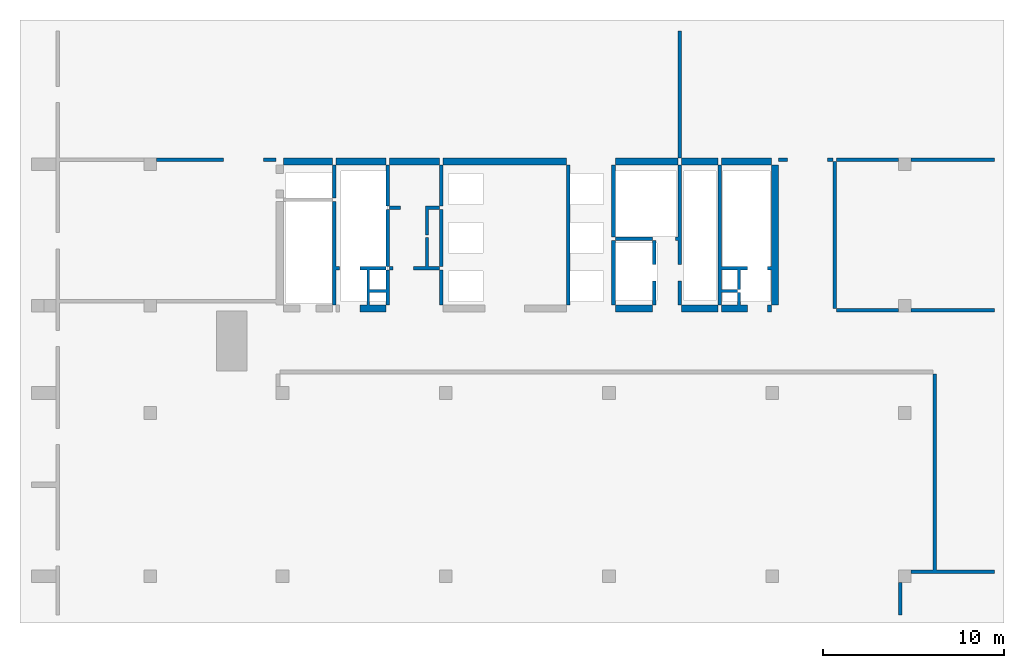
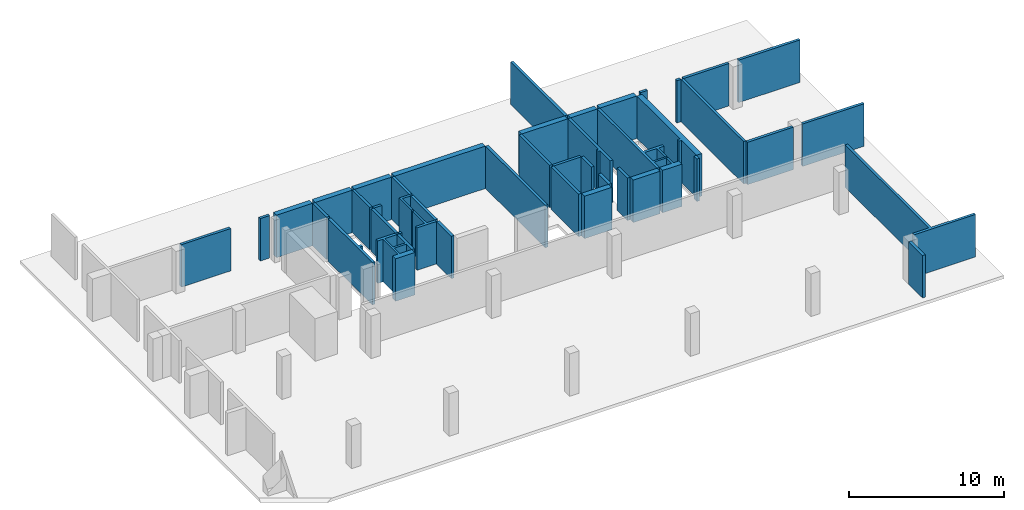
# One storey, part 2 of 2: 45 walls.
"""IFC4 building model written with IfcOpenShell, lengths in millimetres."""

import ifcopenshell
import ifcopenshell.guid

model = None  # the IFC model being written
_history = None  # IfcOwnerHistory: only IFC2X3 demands one
_inside = {}  # id of a spatial element -> (the spatial element, [elements in it])
_under = {}  # id of a project, library or spatial element -> (it, [spatial elements below it])
_declared = {}  # id of a project -> (the project, [libraries it declares])
_typed = {}  # id of a type object -> (the type object, [elements of that type])
_made_of = {}  # id of a material, layer set ... -> (it, [elements and type objects made of it])


def new_model(schema):
    """Start an empty IFC model of exactly this schema.

    Asked for "IFC4X3", IfcOpenShell would pick the latest addendum, in which some entities
    have other attributes; the version numbers below select the first issue.
    IFC2X3 requires an IfcOwnerHistory on every rooted entity: one is made here for all.
    """
    global model, _history
    if schema == "IFC4X3":
        model = ifcopenshell.file(schema_version=(4, 3, 0, 0))
    else:
        model = ifcopenshell.file(schema=schema)
    _inside.clear()
    _under.clear()
    _declared.clear()
    _typed.clear()
    _made_of.clear()
    _history = None
    if model.schema == "IFC2X3":
        org = make("IfcOrganization", Name="unknown")
        user = make(
            "IfcPersonAndOrganization",
            ThePerson=make("IfcPerson", FamilyName="unknown"),
            TheOrganization=org,
        )
        app = make(
            "IfcApplication",
            ApplicationDeveloper=org,
            Version="unknown",
            ApplicationFullName="unknown",
            ApplicationIdentifier="unknown",
        )
        _history = make(
            "IfcOwnerHistory",
            OwningUser=user,
            OwningApplication=app,
            ChangeAction="ADDED",
            CreationDate=0,
        )
    return model


def make(cls, **values):
    """One entity of the class cls with the attributes given. An attribute that is None is left unset."""
    return model.create_entity(
        cls, **{name: value for name, value in values.items() if value is not None}
    )


def rooted(cls, **values):
    """An entity with a GlobalId (a new one), such as an element, a storey or a relation."""
    return make(cls, GlobalId=ifcopenshell.guid.new(), OwnerHistory=_history, **values)


def si_unit(unit_type, name, prefix=None):
    """IfcSIUnit, for example si_unit("LENGTHUNIT", "METRE", prefix="MILLI")."""
    return make("IfcSIUnit", UnitType=unit_type, Prefix=prefix, Name=name)


def assignment(units):
    """IfcUnitAssignment: the units of a project."""
    return None if units is None else make("IfcUnitAssignment", Units=units)


def point(xyz):
    """IfcCartesianPoint."""
    return None if xyz is None else make("IfcCartesianPoint", Coordinates=xyz)


def direction(xyz):
    """IfcDirection."""
    return None if xyz is None else make("IfcDirection", DirectionRatios=xyz)


def frame(location, z_axis=None, x_axis=None):
    """IfcAxis2Placement3D, a coordinate frame: its origin and axes. An axis left out is left unset."""
    return make(
        "IfcAxis2Placement3D",
        Location=point(location),
        Axis=direction(z_axis),
        RefDirection=direction(x_axis),
    )


def origin():
    """The frame at (0, 0, 0) with its axes left unset."""
    return frame((0.0, 0.0, 0.0))


def place(relative_to, where):
    """IfcLocalPlacement: puts the frame where relative to a parent placement (None: the world)."""
    return make(
        "IfcLocalPlacement", PlacementRelTo=relative_to, RelativePlacement=where
    )


def context(
    kind, dimensions, precision=None, world=None, true_north=None, identifier=None
):
    """IfcGeometricRepresentationContext, for example the 3D "Model" context."""
    return make(
        "IfcGeometricRepresentationContext",
        ContextIdentifier=identifier,
        ContextType=kind,
        CoordinateSpaceDimension=dimensions,
        Precision=precision,
        WorldCoordinateSystem=world,
        TrueNorth=true_north,
    )


def project(units=None, contexts=None):
    """IfcProject with its units and contexts."""
    return rooted(
        "IfcProject",
        Name="project",
        RepresentationContexts=contexts,
        UnitsInContext=assignment(units),
    )


def spatial(cls, under=None, at=None, **own):
    """A site, building, storey or space (cls), placed at a placement, below another one or the project."""
    s = rooted(cls, ObjectPlacement=at, **own)
    if under is not None:
        _under.setdefault(under.id(), (under, []))[1].append(s)
    return s


def point_list(points):
    """IfcCartesianPointList2D or 3D."""
    cls = (
        "IfcCartesianPointList2D" if len(points[0]) == 2 else "IfcCartesianPointList3D"
    )
    return make(cls, CoordList=points)


def triangles(points, corners, closed=None, point_numbers=None):
    """IfcTriangulatedFaceSet: each triangle names its three corners, points numbered from 1."""
    return make(
        "IfcTriangulatedFaceSet",
        Coordinates=point_list(points),
        Closed=closed,
        CoordIndex=corners,
        PnIndex=point_numbers,
    )


def shape(context_of_items, identifier, shape_type, items):
    """IfcShapeRepresentation: the items that make up one representation, for example the "Body"."""
    return make(
        "IfcShapeRepresentation",
        ContextOfItems=context_of_items,
        RepresentationIdentifier=identifier,
        RepresentationType=shape_type,
        Items=items,
    )


def made_of(thing, what):
    """Note that an element or type object is made of a material, layer set ...; save() writes the relation."""
    if what is not None:
        _made_of.setdefault(what.id(), (what, []))[1].append(thing)
    return thing


def element(
    cls,
    number,
    at=None,
    inside=None,
    cuts=None,
    type_object=None,
    material=None,
    context=None,
    identifier="Body",
    shape_type=None,
    held_by="IfcProductDefinitionShape",
    body=None,
    shapes=None,
    **own,
):
    """One element of the class cls, such as IfcWall. Its Tag is "e" and its number.

    at: its placement. inside: the storey or other place that contains it. cuts: it is an
    opening in that element (IfcRelVoidsElement). A single representation is given by context,
    identifier, shape_type and body (its items); several are given by shapes. held_by: the class
    of the entity that holds the representations. save() writes the other relations.
    """
    e = rooted(cls, Tag="e%d" % number, ObjectPlacement=at, **own)
    if body is not None:
        shapes = [shape(context, identifier, shape_type, body)]
    if shapes is not None:
        e.Representation = make(held_by, Representations=shapes)
    if inside is not None:
        _inside.setdefault(inside.id(), (inside, []))[1].append(e)
    if cuts is not None:
        rooted(
            "IfcRelVoidsElement", RelatingBuildingElement=cuts, RelatedOpeningElement=e
        )
    if type_object is not None:
        _typed.setdefault(type_object.id(), (type_object, []))[1].append(e)
    return made_of(e, material)


def aggregate(whole, parts):
    """IfcRelAggregates: a whole, such as a stair, and the parts it consists of."""
    return rooted("IfcRelAggregates", RelatingObject=whole, RelatedObjects=parts)


def save(model, path):
    """Write the relations noted so far, then the file.

    IfcRelAggregates (storeys below a building ...), IfcRelContainedInSpatialStructure (elements
    in a storey), IfcRelDefinesByType, IfcRelAssociatesMaterial and IfcRelDeclares: one each for
    every whole, place, type object, material and project.
    """
    for whole, parts in _under.values():
        aggregate(whole, parts)
    for where, things in _inside.values():
        rooted(
            "IfcRelContainedInSpatialStructure",
            RelatedElements=things,
            RelatingStructure=where,
        )
    for kind, things in _typed.values():
        rooted("IfcRelDefinesByType", RelatedObjects=things, RelatingType=kind)
    for what, things in _made_of.values():
        rooted("IfcRelAssociatesMaterial", RelatedObjects=things, RelatingMaterial=what)
    for by, libraries in _declared.values():
        rooted("IfcRelDeclares", RelatingContext=by, RelatedDefinitions=libraries)
    model.write(path)


model = new_model("IFC4")

# Units and contexts
model_context = context("Model", 3, precision=0.001, world=origin())
ifc_project = project(units=[si_unit("LENGTHUNIT", "METRE", prefix="MILLI"), si_unit("AREAUNIT", "SQUARE_METRE"), si_unit("VOLUMEUNIT", "CUBIC_METRE")], contexts=[model_context])

# Site, building, storey
site_placement = place(None, origin())
site = spatial("IfcSite", under=ifc_project, at=site_placement, Name="Site", CompositionType="ELEMENT")
building_placement = place(site_placement, origin())
building = spatial("IfcBuilding", under=site, at=building_placement, Name="INNOCEAN", CompositionType="ELEMENT")
storey_placement = place(building_placement, frame((0.0, 0.0, -30600.0)))
storey = spatial("IfcBuildingStorey", under=building, at=storey_placement, Name="B8", CompositionType="ELEMENT", Elevation=-30600.0)

# Walls
wall_1_placement = place(storey_placement, origin())
element("IfcWall", 1, at=wall_1_placement, inside=storey, Name="B8_Walls_B8_008", context=model_context, shape_type="Tessellation", body=[
    triangles([(10235.0, 25216.3, 0.0), (10235.0, 25419.5, 0.0), (10235.0, 25419.5, 3350.0), (10235.0, 25216.3, 3350.0), (6541.2, 25216.3, 3350.0), (6541.2, 25216.3, 0.0), (6541.2, 25419.5, 0.0), (6541.2, 25419.5, 3350.0)], [[1, 2, 3], [1, 3, 4], [5, 1, 4], [6, 1, 5], [7, 6, 5], [7, 5, 8], [2, 7, 8], [2, 8, 3], [7, 2, 1], [7, 1, 6], [3, 8, 4], [4, 8, 5]], closed=True),
])
wall_2_placement = place(storey_placement, origin())
element("IfcWall", 2, at=wall_2_placement, inside=storey, Name="B8_Walls_B8_014", context=model_context, shape_type="Tessellation", body=[
    triangles([(17749.4, 17316.1, 0.0), (17749.4, 16922.4, 0.0), (17749.4, 16922.4, 3350.0), (17749.4, 17316.1, 3350.0), (19183.7, 16922.4, 0.0), (19183.7, 16922.4, 3350.0), (19183.7, 17316.1, 0.0), (19183.7, 17316.1, 3350.0), (19374.1, 17316.1, 0.0), (19374.1, 17316.1, 3350.0), (19374.1, 19246.7, 0.0), (19374.1, 19246.7, 3350.0), (19183.7, 19246.7, 0.0), (19183.7, 19246.7, 3350.0), (19183.7, 19449.9, 0.0), (19183.7, 19449.9, 3350.0), (17749.4, 19449.9, 0.0), (17749.4, 19449.9, 3350.0), (17749.4, 19246.7, 0.0), (17749.4, 19246.7, 3350.0), (18130.2, 19246.7, 0.0), (18130.2, 19246.7, 3350.0), (18130.2, 19245.0, 0.0), (18130.2, 19245.0, 3350.0), (18130.0, 19245.0, 0.0), (18130.0, 19245.0, 3350.0), (18130.0, 17316.1, 0.0), (18130.0, 17316.1, 3350.0), (18282.5, 17316.1, 0.0), (18282.5, 17316.1, 3350.0), (18282.5, 18014.7, 0.0), (18282.5, 18014.7, 3350.0), (19183.7, 18014.7, 0.0), (19183.7, 18014.7, 3350.0), (19183.7, 18167.1, 0.0), (19183.7, 18167.1, 3350.0), (18282.5, 18167.1, 0.0), (18282.5, 18167.1, 3350.0), (18282.5, 19246.7, 0.0), (18282.5, 19246.7, 3350.0)], [[1, 2, 3], [1, 3, 4], [2, 5, 6], [2, 6, 3], [5, 7, 8], [5, 8, 6], [7, 9, 10], [7, 10, 8], [11, 12, 10], [9, 11, 10], [11, 13, 14], [11, 14, 12], [13, 15, 16], [13, 16, 14], [15, 17, 18], [15, 18, 16], [17, 19, 20], [17, 20, 18], [19, 21, 22], [19, 22, 20], [21, 23, 24], [21, 24, 22], [23, 25, 26], [23, 26, 24], [25, 27, 28], [25, 28, 26], [27, 1, 4], [27, 4, 28], [7, 29, 30], [7, 30, 8], [29, 31, 32], [29, 32, 30], [31, 33, 34], [31, 34, 32], [33, 7, 8], [33, 8, 34], [13, 35, 36], [13, 36, 14], [35, 37, 38], [35, 38, 36], [37, 39, 40], [37, 40, 38], [39, 13, 14], [39, 14, 40], [33, 9, 7], [35, 9, 33], [29, 7, 5], [2, 29, 5], [27, 29, 2], [1, 27, 2], [31, 35, 33], [31, 29, 27], [11, 9, 35], [37, 35, 31], [13, 11, 35], [39, 15, 13], [23, 39, 37], [25, 23, 37], [21, 39, 23], [17, 21, 19], [17, 15, 39], [17, 39, 21], [27, 25, 37], [27, 37, 31], [10, 34, 8], [10, 36, 34], [8, 30, 6], [30, 3, 6], [30, 28, 3], [28, 4, 3], [36, 32, 34], [30, 32, 28], [10, 12, 36], [36, 38, 32], [12, 14, 36], [16, 40, 14], [40, 24, 38], [24, 26, 38], [40, 22, 24], [22, 18, 20], [16, 18, 40], [40, 18, 22], [26, 28, 38], [38, 28, 32]], closed=True),
])
wall_3_placement = place(storey_placement, origin())
element("IfcWall", 3, at=wall_3_placement, inside=storey, Name="B8_Walls_B8_015", context=model_context, shape_type="Tessellation", body=[
    triangles([(16429.3, 23019.0, 0.0), (16226.2, 23019.0, 0.0), (16226.2, 23019.0, 3350.0), (16429.3, 23019.0, 3350.0), (16429.3, 19449.9, 0.0), (16429.3, 19449.9, 3350.0), (16632.4, 19449.9, 0.0), (16632.4, 19449.9, 3350.0), (16632.4, 19246.7, 0.0), (16632.4, 19246.7, 3350.0), (16429.3, 19246.7, 0.0), (16429.3, 19246.7, 3350.0), (16429.3, 17316.1, 3350.0), (16429.3, 17316.1, 0.0), (16226.2, 17316.1, 0.0), (16226.2, 17316.1, 3350.0), (16226.2, 19246.7, 3350.0), (16226.2, 19246.7, 0.0), (16226.2, 19449.9, 0.0), (16226.2, 19449.9, 3350.0)], [[1, 2, 3], [1, 3, 4], [5, 1, 4], [5, 4, 6], [7, 5, 6], [7, 6, 8], [9, 7, 8], [9, 8, 10], [11, 9, 10], [11, 10, 12], [11, 12, 13], [14, 11, 13], [15, 14, 13], [15, 13, 16], [15, 16, 17], [18, 15, 17], [19, 18, 17], [19, 17, 20], [2, 19, 20], [2, 20, 3], [18, 11, 14], [18, 14, 15], [5, 7, 9], [5, 9, 11], [19, 5, 11], [19, 11, 18], [1, 5, 19], [2, 1, 19], [12, 17, 13], [13, 17, 16], [8, 6, 10], [10, 6, 12], [6, 20, 12], [12, 20, 17], [6, 4, 20], [4, 3, 20]], closed=True),
])
wall_4_placement = place(storey_placement, origin())
element("IfcWall", 4, at=wall_4_placement, inside=storey, Name="B8_Walls_B8_016", context=model_context, shape_type="Tessellation", body=[
    triangles([(19577.2, 19449.9, 0.0), (19374.1, 19449.9, 0.0), (19374.1, 19449.9, 3350.0), (19577.2, 19449.9, 3350.0), (19577.2, 19246.7, 0.0), (19577.2, 19246.7, 3350.0), (19374.1, 19246.7, 0.0), (19374.1, 19246.7, 3350.0)], [[1, 2, 3], [1, 3, 4], [5, 1, 4], [5, 4, 6], [7, 5, 6], [7, 6, 8], [2, 7, 8], [2, 8, 3], [2, 1, 5], [2, 5, 7], [4, 3, 6], [6, 3, 8]], closed=True),
])
wall_5_placement = place(storey_placement, origin())
element("IfcWall", 5, at=wall_5_placement, inside=storey, Name="B8_Walls_B8_017", context=model_context, shape_type="Tessellation", body=[
    triangles([(19374.1, 19449.9, 0.0), (19374.1, 22574.4, 0.0), (19374.1, 22574.4, 3350.0), (19374.1, 19449.9, 3350.0), (19183.7, 19449.9, 0.0), (19183.7, 19449.9, 3350.0), (19183.7, 22574.4, 0.0), (19183.7, 22574.4, 3350.0)], [[1, 2, 3], [1, 3, 4], [5, 1, 4], [5, 4, 6], [7, 5, 6], [7, 6, 8], [2, 7, 8], [2, 8, 3], [2, 1, 5], [7, 2, 5], [4, 3, 6], [3, 8, 6]], closed=True),
])
wall_6_placement = place(storey_placement, origin())
element("IfcWall", 6, at=wall_6_placement, inside=storey, Name="B8_Walls_B8_018", context=model_context, shape_type="Tessellation", body=[
    triangles([(19970.7, 22574.4, 0.0), (19970.7, 22765.0, 0.0), (19970.7, 22765.0, 3350.0), (19970.7, 22574.4, 3350.0), (19374.1, 22574.4, 0.0), (19374.1, 22574.4, 3350.0), (19374.1, 22765.0, 0.0), (19374.1, 22765.0, 3350.0)], [[1, 2, 3], [1, 3, 4], [5, 1, 4], [5, 4, 6], [7, 5, 6], [7, 6, 8], [2, 7, 8], [2, 8, 3], [7, 2, 1], [7, 1, 5], [3, 8, 4], [4, 8, 6]], closed=True),
])
wall_7_placement = place(storey_placement, origin())
element("IfcWall", 7, at=wall_7_placement, inside=storey, Name="B8_Walls_B8_021", context=model_context, shape_type="Tessellation", body=[
    triangles([(19374.1, 22765.0, 0.0), (19374.1, 25025.8, 0.0), (19374.1, 25025.8, 3350.0), (19374.1, 22765.0, 3350.0), (19183.7, 22765.0, 0.0), (19183.7, 22765.0, 3350.0), (19183.7, 25025.8, 0.0), (19183.7, 25025.8, 3350.0)], [[1, 2, 3], [1, 3, 4], [5, 1, 4], [5, 4, 6], [7, 5, 6], [7, 6, 8], [2, 7, 8], [2, 8, 3], [7, 2, 1], [7, 1, 5], [3, 8, 4], [4, 8, 6]], closed=True),
])
wall_8_placement = place(storey_placement, origin())
element("IfcWall", 8, at=wall_8_placement, inside=storey, Name="B8_Walls_B8_022", context=model_context, shape_type="Tessellation", body=[
    triangles([(16429.3, 23222.2, 0.0), (16429.3, 25025.8, 0.0), (16429.3, 25025.8, 3350.0), (16429.3, 23222.2, 3350.0), (16226.2, 23222.2, 0.0), (16226.2, 23222.2, 3350.0), (16226.2, 25025.8, 0.0), (16226.2, 25025.8, 3350.0)], [[1, 2, 3], [1, 3, 4], [5, 1, 4], [5, 4, 6], [7, 5, 6], [7, 6, 8], [2, 7, 8], [2, 8, 3], [7, 2, 1], [7, 1, 5], [3, 8, 4], [4, 8, 6]], closed=True),
])
wall_9_placement = place(storey_placement, origin())
element("IfcWall", 9, at=wall_9_placement, inside=storey, Name="B8_Walls_B8_024", context=model_context, shape_type="Tessellation", body=[
    triangles([(16226.2, 25025.8, 0.0), (16226.2, 25419.5, 0.0), (16226.2, 25419.5, 3350.0), (16226.2, 25025.8, 3350.0), (13535.2, 25025.8, 0.0), (13535.2, 25025.8, 3350.0), (13535.2, 25419.5, 0.0), (13535.2, 25419.5, 3350.0)], [[1, 2, 3], [1, 3, 4], [5, 1, 4], [5, 4, 6], [7, 5, 6], [7, 6, 8], [2, 7, 8], [2, 8, 3], [5, 2, 1], [7, 2, 5], [3, 6, 4], [3, 8, 6]], closed=True),
])
wall_10_placement = place(storey_placement, origin())
element("IfcWall", 10, at=wall_10_placement, inside=storey, Name="B8_Walls_B8_025", context=model_context, shape_type="Tessellation", body=[
    triangles([(19183.7, 25025.8, 0.0), (19183.7, 25419.5, 0.0), (19183.7, 25419.5, 3350.0), (19183.7, 25025.8, 3350.0), (16429.3, 25025.8, 0.0), (16429.3, 25025.8, 3350.0), (16429.3, 25419.5, 0.0), (16429.3, 25419.5, 3350.0)], [[1, 2, 3], [1, 3, 4], [5, 1, 4], [5, 4, 6], [7, 5, 6], [7, 6, 8], [2, 7, 8], [2, 8, 3], [7, 2, 1], [7, 1, 5], [3, 8, 4], [4, 8, 6]], closed=True),
])
wall_11_placement = place(storey_placement, origin())
element("IfcWall", 11, at=wall_11_placement, inside=storey, Name="B8_Walls_B8_026", context=model_context, shape_type="Tessellation", body=[
    triangles([(22128.5, 25419.5, 0.0), (19374.1, 25419.5, 0.0), (19374.1, 25419.5, 3350.0), (22128.5, 25419.5, 3350.0), (22128.5, 25025.8, 0.0), (22128.5, 25025.8, 3350.0), (19374.1, 25025.8, 0.0), (19374.1, 25025.8, 3350.0)], [[1, 2, 3], [1, 3, 4], [5, 1, 4], [5, 4, 6], [7, 5, 6], [7, 6, 8], [2, 7, 8], [2, 8, 3], [2, 1, 5], [2, 5, 7], [4, 3, 6], [6, 3, 8]], closed=True),
])
wall_12_placement = place(storey_placement, origin())
element("IfcWall", 12, at=wall_12_placement, inside=storey, Name="B8_Walls_B8_027", context=model_context, shape_type="Tessellation", body=[
    triangles([(13130.0, 25420.0, 0.0), (12430.0, 25420.0, 0.0), (12430.0, 25420.0, 3350.0), (13130.0, 25420.0, 3350.0), (13130.0, 25215.0, 3350.0), (13130.0, 25215.0, 0.0), (12430.0, 25215.0, 0.0), (12430.0, 25215.0, 3350.0)], [[1, 2, 3], [1, 3, 4], [1, 4, 5], [6, 1, 5], [7, 6, 5], [7, 5, 8], [7, 8, 3], [2, 7, 3], [2, 1, 6], [2, 6, 7], [4, 3, 5], [5, 3, 8]], closed=True),
])
wall_13_placement = place(storey_placement, origin())
element("IfcWall", 13, at=wall_13_placement, inside=storey, Name="B8_Walls_B8_031", context=model_context, shape_type="Tessellation", body=[
    triangles([(33869.8, 16922.4, 0.0), (33869.8, 17316.1, 0.0), (33869.8, 17316.1, 3350.0), (33869.8, 16922.4, 3350.0), (31826.2, 16922.4, 0.0), (31826.2, 16922.4, 3350.0), (31826.2, 17316.1, 0.0), (31826.2, 17316.1, 3350.0)], [[1, 2, 3], [1, 3, 4], [5, 1, 4], [5, 4, 6], [7, 5, 6], [7, 6, 8], [2, 7, 8], [2, 8, 3], [7, 2, 1], [7, 1, 5], [3, 8, 4], [4, 8, 6]], closed=True),
])
wall_14_placement = place(storey_placement, origin())
element("IfcWall", 14, at=wall_14_placement, inside=storey, Name="B8_Walls_B8_032", context=model_context, shape_type="Tessellation", body=[
    triangles([(37474.6, 16922.4, 0.0), (37474.6, 17316.1, 0.0), (37474.6, 17316.1, 3350.0), (37474.6, 16922.4, 3350.0), (35469.1, 16922.4, 0.0), (35469.1, 16922.4, 3350.0), (35469.1, 17316.1, 0.0), (35469.1, 17316.1, 3350.0)], [[1, 2, 3], [1, 3, 4], [5, 1, 4], [5, 4, 6], [7, 5, 6], [7, 6, 8], [2, 7, 8], [2, 8, 3], [7, 2, 1], [7, 1, 5], [3, 8, 4], [4, 8, 6]], closed=True),
])
wall_15_placement = place(storey_placement, origin())
element("IfcWall", 15, at=wall_15_placement, inside=storey, Name="B8_Walls_B8_033", context=model_context, shape_type="Tessellation", body=[
    triangles([(34072.9, 18649.7, 0.0), (33869.8, 18649.7, 0.0), (33869.8, 18649.7, 3350.0), (34072.9, 18649.7, 3350.0), (34072.9, 17316.1, 0.0), (34072.9, 17316.1, 3350.0), (33869.8, 17316.1, 0.0), (33869.8, 17316.1, 3350.0)], [[1, 2, 3], [1, 3, 4], [5, 1, 4], [5, 4, 6], [7, 5, 6], [7, 6, 8], [2, 7, 8], [2, 8, 3], [2, 1, 5], [2, 5, 7], [4, 3, 6], [6, 3, 8]], closed=True),
])
wall_16_placement = place(storey_placement, origin())
element("IfcWall", 16, at=wall_16_placement, inside=storey, Name="B8_Walls_B8_034", context=model_context, shape_type="Tessellation", body=[
    triangles([(35469.1, 17316.1, 0.0), (35469.1, 18649.7, 0.0), (35469.1, 18649.7, 3350.0), (35469.1, 17316.1, 3350.0), (35266.0, 17316.1, 0.0), (35266.0, 17316.1, 3350.0), (35266.0, 18649.7, 0.0), (35266.0, 18649.7, 3350.0)], [[1, 2, 3], [1, 3, 4], [5, 1, 4], [5, 4, 6], [7, 5, 6], [7, 6, 8], [2, 7, 8], [2, 8, 3], [7, 2, 1], [7, 1, 5], [3, 8, 4], [4, 8, 6]], closed=True),
])
wall_17_placement = place(storey_placement, origin())
element("IfcWall", 17, at=wall_17_placement, inside=storey, Name="B8_Walls_B8_035", context=model_context, shape_type="Tessellation", body=[
    triangles([(22331.6, 19246.7, 0.0), (22331.6, 19246.7, 3350.0), (22331.6, 17316.1, 3350.0), (22331.6, 17316.1, 0.0), (22128.5, 17316.1, 0.0), (22128.5, 17316.1, 3350.0), (22128.5, 19246.7, 3350.0), (22128.5, 19246.7, 0.0)], [[1, 2, 3], [4, 1, 3], [5, 4, 3], [5, 3, 6], [5, 6, 7], [8, 5, 7], [1, 8, 7], [1, 7, 2], [8, 1, 4], [8, 4, 5], [2, 7, 3], [3, 7, 6]], closed=True),
])
wall_18_placement = place(storey_placement, origin())
element("IfcWall", 18, at=wall_18_placement, inside=storey, Name="B8_Walls_B8_036", context=model_context, shape_type="Tessellation", body=[
    triangles([(37474.6, 25025.8, 0.0), (37474.6, 19449.9, 0.0), (37474.6, 19449.9, 3350.0), (37474.6, 25025.8, 3350.0), (37474.6, 17316.1, 0.0), (37474.6, 17316.1, 3350.0), (37665.0, 17316.1, 0.0), (37665.0, 17316.1, 3350.0), (37665.0, 18014.7, 0.0), (37665.0, 18014.7, 3350.0), (38566.3, 18014.7, 0.0), (38566.3, 18014.7, 3350.0), (38566.3, 18167.1, 0.0), (38566.3, 18167.1, 3350.0), (38718.6, 18167.1, 0.0), (38718.6, 18167.1, 3350.0), (38718.6, 19245.0, 0.0), (38718.6, 19245.0, 3350.0), (38720.0, 19245.0, 0.0), (38720.0, 19245.0, 3350.0), (39100.0, 19245.0, 0.0), (39100.0, 19245.0, 3350.0), (39100.0, 19450.0, 0.0), (39100.0, 19450.0, 3350.0), (37665.0, 19450.0, 0.0), (37665.0, 19450.0, 3350.0), (37665.0, 25025.8, 0.0), (37665.0, 25025.8, 3350.0), (37665.0, 18167.1, 0.0), (37665.0, 18167.1, 3350.0), (37665.0, 19245.0, 0.0), (37665.0, 19245.0, 3350.0), (38565.0, 19245.0, 0.0), (38565.0, 19245.0, 3350.0), (38566.3, 19245.0, 0.0), (38566.3, 19245.0, 3350.0)], [[1, 2, 3], [1, 3, 4], [2, 5, 6], [2, 6, 3], [5, 7, 8], [5, 8, 6], [7, 9, 10], [7, 10, 8], [9, 11, 12], [9, 12, 10], [13, 14, 12], [11, 13, 12], [13, 15, 16], [13, 16, 14], [15, 17, 18], [15, 18, 16], [17, 19, 20], [17, 20, 18], [19, 21, 22], [19, 22, 20], [23, 24, 22], [21, 23, 22], [23, 25, 26], [23, 26, 24], [25, 27, 28], [25, 28, 26], [27, 1, 4], [27, 4, 28], [13, 29, 30], [13, 30, 14], [29, 31, 32], [29, 32, 30], [33, 34, 32], [31, 33, 32], [33, 35, 36], [33, 36, 34], [35, 13, 14], [35, 14, 36], [9, 7, 5], [29, 13, 11], [29, 11, 9], [29, 9, 5], [19, 23, 21], [17, 23, 19], [35, 17, 15], [35, 15, 13], [35, 23, 17], [33, 23, 35], [25, 33, 31], [25, 23, 33], [2, 31, 29], [2, 29, 5], [2, 25, 31], [1, 27, 25], [1, 25, 2], [8, 10, 6], [14, 30, 12], [12, 30, 10], [10, 30, 6], [24, 20, 22], [24, 18, 20], [18, 36, 16], [16, 36, 14], [24, 36, 18], [24, 34, 36], [34, 26, 32], [24, 26, 34], [32, 3, 30], [30, 3, 6], [26, 3, 32], [28, 4, 26], [26, 4, 3]], closed=True),
])
wall_19_placement = place(storey_placement, origin())
element("IfcWall", 19, at=wall_19_placement, inside=storey, Name="B8_Walls_B8_037", context=model_context, shape_type="Tessellation", body=[
    triangles([(31826.2, 17316.1, 3350.0), (31826.2, 20872.5, 0.0), (31826.2, 20872.5, 3350.0), (31826.2, 17316.1, 0.0), (31623.1, 17316.1, 0.0), (31623.1, 17316.1, 3350.0), (31623.1, 20872.5, 3350.0), (31623.1, 20872.5, 0.0)], [[1, 2, 3], [4, 2, 1], [5, 4, 1], [5, 1, 6], [7, 5, 6], [8, 5, 7], [2, 8, 7], [2, 7, 3], [8, 2, 4], [8, 4, 5], [3, 7, 1], [1, 7, 6]], closed=True),
])
wall_20_placement = place(storey_placement, origin())
element("IfcWall", 20, at=wall_20_placement, inside=storey, Name="B8_Walls_B8_038", context=model_context, shape_type="Tessellation", body=[
    triangles([(21366.9, 21024.9, 0.0), (21366.9, 19449.9, 0.0), (21366.9, 19449.9, 3350.0), (21366.9, 21024.9, 3350.0), (21519.3, 21024.9, 3350.0), (21519.3, 21024.9, 0.0), (21519.3, 19449.9, 0.0), (21519.3, 19449.9, 3350.0), (22128.5, 19449.9, 0.0), (22128.5, 19449.9, 3350.0), (22128.5, 19246.7, 0.0), (22128.5, 19246.7, 3350.0), (20694.2, 19246.7, 0.0), (20694.2, 19246.7, 3350.0), (20694.2, 19449.9, 0.0), (20694.2, 19449.9, 3350.0)], [[1, 2, 3], [1, 3, 4], [1, 4, 5], [6, 1, 5], [7, 6, 5], [7, 5, 8], [9, 7, 8], [9, 8, 10], [11, 9, 10], [11, 10, 12], [13, 11, 12], [13, 12, 14], [15, 13, 14], [15, 14, 16], [2, 15, 16], [2, 16, 3], [7, 9, 11], [2, 7, 11], [13, 2, 11], [15, 2, 13], [1, 6, 7], [1, 7, 2], [10, 8, 12], [8, 3, 12], [3, 14, 12], [3, 16, 14], [5, 4, 8], [8, 4, 3]], closed=True),
])
wall_21_placement = place(storey_placement, origin())
element("IfcWall", 21, at=wall_21_placement, inside=storey, Name="B8_Walls_B8_039", context=model_context, shape_type="Tessellation", body=[
    triangles([(34072.9, 19551.5, 0.0), (34072.9, 20872.5, 0.0), (34072.9, 20872.5, 3350.0), (34072.9, 19551.5, 3350.0), (33869.8, 19551.5, 0.0), (33869.8, 19551.5, 3350.0), (33869.8, 20872.5, 0.0), (33869.8, 20872.5, 3350.0)], [[1, 2, 3], [1, 3, 4], [5, 1, 4], [5, 4, 6], [7, 5, 6], [7, 6, 8], [2, 7, 8], [2, 8, 3], [7, 2, 1], [7, 1, 5], [3, 8, 4], [4, 8, 6]], closed=True),
])
wall_22_placement = place(storey_placement, origin())
element("IfcWall", 22, at=wall_22_placement, inside=storey, Name="B8_Walls_B8_040", context=model_context, shape_type="Tessellation", body=[
    triangles([(35469.1, 25025.8, 0.0), (35266.0, 25025.8, 0.0), (35266.0, 25025.8, 3350.0), (35469.1, 25025.8, 3350.0), (35469.1, 21075.7, 3350.0), (35469.1, 21075.7, 0.0), (35469.1, 20872.5, 0.0), (35469.1, 20872.5, 3350.0), (35469.1, 19551.5, 0.0), (35469.1, 19551.5, 3350.0), (35266.0, 19551.5, 0.0), (35266.0, 19551.5, 3350.0), (35266.0, 20872.5, 0.0), (35266.0, 20872.5, 3350.0), (35126.4, 20872.5, 0.0), (35126.4, 20872.5, 3350.0), (35126.4, 21075.7, 0.0), (35126.4, 21075.7, 3350.0), (35266.0, 21075.7, 0.0), (35266.0, 21075.7, 3350.0)], [[1, 2, 3], [1, 3, 4], [5, 1, 4], [6, 1, 5], [7, 6, 5], [7, 5, 8], [9, 7, 8], [9, 8, 10], [11, 9, 10], [11, 10, 12], [13, 11, 12], [13, 12, 14], [15, 13, 14], [15, 14, 16], [17, 15, 16], [17, 16, 18], [19, 17, 18], [19, 18, 20], [3, 19, 20], [2, 19, 3], [13, 7, 9], [13, 9, 11], [6, 7, 13], [19, 6, 13], [17, 13, 15], [17, 19, 13], [2, 1, 6], [2, 6, 19], [8, 14, 10], [10, 14, 12], [8, 5, 14], [5, 20, 14], [14, 18, 16], [20, 18, 14], [4, 3, 5], [5, 3, 20]], closed=True),
])
wall_23_placement = place(storey_placement, origin())
element("IfcWall", 23, at=wall_23_placement, inside=storey, Name="B8_Walls_B8_041", context=model_context, shape_type="Tessellation", body=[
    triangles([(33869.8, 20872.5, 0.0), (33869.8, 21075.7, 0.0), (33869.8, 21075.7, 3350.0), (33869.8, 20872.5, 3350.0), (31826.2, 20872.5, 0.0), (31826.2, 20872.5, 3350.0), (31826.2, 21075.7, 0.0), (31826.2, 21075.7, 3350.0)], [[1, 2, 3], [1, 3, 4], [5, 1, 4], [5, 4, 6], [7, 5, 6], [7, 6, 8], [2, 7, 8], [2, 8, 3], [7, 2, 1], [7, 1, 5], [3, 8, 4], [4, 8, 6]], closed=True),
])
wall_24_placement = place(storey_placement, origin())
element("IfcWall", 24, at=wall_24_placement, inside=storey, Name="B8_Walls_B8_042", context=model_context, shape_type="Tessellation", body=[
    triangles([(22331.6, 19449.9, 0.0), (22331.6, 22574.4, 0.0), (22331.6, 22574.4, 3350.0), (22331.6, 19449.9, 3350.0), (22128.5, 19449.9, 0.0), (22128.5, 19449.9, 3350.0), (22128.5, 22574.4, 0.0), (22128.5, 22574.4, 3350.0)], [[1, 2, 3], [1, 3, 4], [5, 1, 4], [5, 4, 6], [7, 5, 6], [7, 6, 8], [2, 7, 8], [2, 8, 3], [2, 1, 5], [7, 2, 5], [4, 3, 6], [3, 8, 6]], closed=True),
])
wall_25_placement = place(storey_placement, origin())
element("IfcWall", 25, at=wall_25_placement, inside=storey, Name="B8_Walls_B8_043", context=model_context, shape_type="Tessellation", body=[
    triangles([(29325.6, 17316.1, 0.0), (29325.6, 25025.8, 0.0), (29325.6, 25025.8, 3350.0), (29325.6, 17316.1, 3350.0), (29122.5, 17316.1, 0.0), (29122.5, 17316.1, 3350.0), (29122.5, 25025.8, 0.0), (29122.5, 25025.8, 3350.0)], [[1, 2, 3], [1, 3, 4], [5, 1, 4], [5, 4, 6], [7, 5, 6], [7, 6, 8], [2, 7, 8], [2, 8, 3], [7, 2, 1], [7, 1, 5], [3, 8, 4], [4, 8, 6]], closed=True),
])
wall_26_placement = place(storey_placement, origin())
element("IfcWall", 26, at=wall_26_placement, inside=storey, Name="B8_Walls_B8_044", context=model_context, shape_type="Tessellation", body=[
    triangles([(22128.5, 22765.0, 0.0), (21366.9, 22765.0, 0.0), (21366.9, 22765.0, 3350.0), (22128.5, 22765.0, 3350.0), (22128.5, 22574.4, 0.0), (22128.5, 22574.4, 3350.0), (21519.3, 22574.4, 0.0), (21519.3, 22574.4, 3350.0), (21519.3, 21177.3, 0.0), (21519.3, 21177.3, 3350.0), (21366.9, 21177.3, 3350.0), (21366.9, 21177.3, 0.0), (21366.9, 22574.4, 0.0), (21366.9, 22574.4, 3350.0)], [[1, 2, 3], [1, 3, 4], [5, 1, 4], [5, 4, 6], [7, 5, 6], [7, 6, 8], [9, 7, 8], [9, 8, 10], [9, 10, 11], [12, 9, 11], [13, 12, 11], [13, 11, 14], [2, 13, 14], [2, 14, 3], [7, 1, 5], [13, 7, 9], [13, 9, 12], [2, 1, 7], [2, 7, 13], [4, 8, 6], [8, 14, 10], [10, 14, 11], [4, 3, 8], [8, 3, 14]], closed=True),
])
wall_27_placement = place(storey_placement, origin())
element("IfcWall", 27, at=wall_27_placement, inside=storey, Name="B8_Walls_B8_045", context=model_context, shape_type="Tessellation", body=[
    triangles([(31826.2, 21075.7, 3350.0), (31826.2, 25025.8, 0.0), (31826.2, 25025.8, 3350.0), (31826.2, 21075.7, 0.0), (31623.1, 21075.7, 0.0), (31623.1, 21075.7, 3350.0), (31623.1, 25025.8, 3350.0), (31623.1, 25025.8, 0.0)], [[1, 2, 3], [4, 2, 1], [5, 4, 1], [5, 1, 6], [7, 5, 6], [8, 5, 7], [2, 8, 7], [2, 7, 3], [2, 4, 5], [8, 2, 5], [1, 3, 6], [3, 7, 6]], closed=True),
])
wall_28_placement = place(storey_placement, origin())
element("IfcWall", 28, at=wall_28_placement, inside=storey, Name="B8_Walls_B8_046", context=model_context, shape_type="Tessellation", body=[
    triangles([(22331.6, 22765.0, 0.0), (22331.6, 25025.8, 0.0), (22331.6, 25025.8, 3350.0), (22331.6, 22765.0, 3350.0), (22128.5, 22765.0, 0.0), (22128.5, 22765.0, 3350.0), (22128.5, 25025.8, 0.0), (22128.5, 25025.8, 3350.0)], [[1, 2, 3], [1, 3, 4], [5, 1, 4], [5, 4, 6], [7, 5, 6], [7, 6, 8], [2, 7, 8], [2, 8, 3], [7, 2, 1], [7, 1, 5], [3, 8, 4], [4, 8, 6]], closed=True),
])
wall_29_placement = place(storey_placement, origin())
element("IfcWall", 29, at=wall_29_placement, inside=storey, Name="B8_Walls_B8_047", context=model_context, shape_type="Tessellation", body=[
    triangles([(29122.5, 25025.8, 0.0), (29122.5, 25419.5, 0.0), (29122.5, 25419.5, 3350.0), (29122.5, 25025.8, 3350.0), (22331.6, 25025.8, 0.0), (22331.6, 25025.8, 3350.0), (22331.6, 25419.5, 0.0), (22331.6, 25419.5, 3350.0)], [[1, 2, 3], [1, 3, 4], [5, 1, 4], [5, 4, 6], [7, 5, 6], [7, 6, 8], [2, 7, 8], [2, 8, 3], [7, 2, 1], [7, 1, 5], [3, 8, 4], [4, 8, 6]], closed=True),
])
wall_30_placement = place(storey_placement, origin())
element("IfcWall", 30, at=wall_30_placement, inside=storey, Name="B8_Walls_B8_048", context=model_context, shape_type="Tessellation", body=[
    triangles([(35266.0, 25025.8, 0.0), (35266.0, 25419.5, 0.0), (35266.0, 25419.5, 3350.0), (35266.0, 25025.8, 3350.0), (31826.2, 25025.8, 3350.0), (31826.2, 25025.8, 0.0), (31826.2, 25419.5, 0.0), (31826.2, 25419.5, 3350.0)], [[1, 2, 3], [1, 3, 4], [5, 1, 4], [6, 1, 5], [7, 6, 5], [7, 5, 8], [3, 7, 8], [2, 7, 3], [7, 2, 1], [7, 1, 6], [3, 8, 4], [4, 8, 5]], closed=True),
])
wall_31_placement = place(storey_placement, origin())
element("IfcWall", 31, at=wall_31_placement, inside=storey, Name="B8_Walls_B8_049", context=model_context, shape_type="Tessellation", body=[
    triangles([(35469.1, 25025.8, 0.0), (37474.6, 25025.8, 0.0), (37474.6, 25025.8, 3350.0), (35469.1, 25025.8, 3350.0), (35469.1, 25419.5, 0.0), (35469.1, 25419.5, 3350.0), (37474.6, 25419.5, 0.0), (37474.6, 25419.5, 3350.0)], [[1, 2, 3], [1, 3, 4], [5, 1, 4], [5, 4, 6], [7, 5, 6], [7, 6, 8], [2, 7, 8], [2, 8, 3], [5, 2, 1], [5, 7, 2], [3, 6, 4], [8, 6, 3]], closed=True),
])
wall_32_placement = place(storey_placement, origin())
element("IfcWall", 32, at=wall_32_placement, inside=storey, Name="B8_Walls_B8_050", context=model_context, shape_type="Tessellation", body=[
    triangles([(35469.1, 25420.0, 0.0), (35470.0, 25420.0, 0.0), (35470.0, 25420.0, 3350.0), (35469.1, 25420.0, 3350.0), (35469.1, 25419.5, 0.0), (35469.1, 25419.5, 3350.0), (35266.0, 25419.5, 0.0), (35266.0, 25419.5, 3350.0), (35266.0, 25420.0, 0.0), (35266.0, 25420.0, 3350.0), (35265.0, 25420.0, 0.0), (35265.0, 25420.0, 3350.0), (35265.0, 32420.0, 0.0), (35265.0, 32420.0, 3350.0), (35470.0, 32420.0, 3350.0), (35470.0, 32420.0, 0.0)], [[1, 2, 3], [1, 3, 4], [5, 1, 4], [5, 4, 6], [7, 5, 6], [7, 6, 8], [9, 7, 8], [9, 8, 10], [11, 9, 10], [11, 10, 12], [13, 11, 12], [13, 12, 14], [13, 14, 15], [16, 13, 15], [2, 16, 15], [2, 15, 3], [9, 1, 5], [9, 5, 7], [16, 2, 1], [16, 1, 9], [13, 9, 11], [13, 16, 9], [4, 10, 6], [6, 10, 8], [3, 15, 4], [4, 15, 10], [10, 14, 12], [15, 14, 10]], closed=True),
])
wall_33_placement = place(storey_placement, origin())
element("IfcWall", 33, at=wall_33_placement, inside=storey, Name="B8_Walls_B8_051", context=model_context, shape_type="Tessellation", body=[
    triangles([(47616.5, 220.2, 0.0), (47616.5, 2023.7, 0.0), (47616.5, 2023.7, 3350.0), (47616.5, 220.2, 3350.0), (47413.4, 220.2, 0.0), (47413.4, 220.2, 3350.0), (47413.4, 2023.7, 0.0), (47413.4, 2023.7, 3350.0)], [[1, 2, 3], [1, 3, 4], [5, 1, 4], [5, 4, 6], [7, 5, 6], [7, 6, 8], [2, 7, 8], [2, 8, 3], [7, 2, 1], [7, 1, 5], [3, 8, 4], [4, 8, 6]], closed=True),
])
wall_34_placement = place(storey_placement, origin())
element("IfcWall", 34, at=wall_34_placement, inside=storey, Name="B8_Walls_B8_052", context=model_context, shape_type="Tessellation", body=[
    triangles([(52706.5, 2722.3, 0.0), (52706.5, 2722.3, 3350.0), (52706.5, 2519.1, 3350.0), (52706.5, 2519.1, 0.0), (48111.6, 2519.1, 0.0), (48111.6, 2519.1, 3350.0), (48111.6, 2722.3, 3350.0), (48111.6, 2722.3, 0.0), (49317.4, 2722.3, 0.0), (49317.4, 2722.3, 3350.0), (49317.4, 13518.4, 3350.0), (49317.4, 13518.4, 0.0), (49507.8, 13518.4, 0.0), (49507.8, 13518.4, 3350.0), (49507.8, 2722.3, 0.0), (49507.8, 2722.3, 3350.0)], [[1, 2, 3], [4, 1, 3], [5, 4, 3], [5, 3, 6], [5, 6, 7], [8, 5, 7], [9, 8, 7], [9, 7, 10], [11, 9, 10], [12, 9, 11], [13, 12, 11], [13, 11, 14], [15, 13, 14], [15, 14, 16], [15, 16, 2], [1, 15, 2], [15, 1, 4], [5, 15, 4], [5, 9, 15], [8, 9, 5], [12, 13, 15], [12, 15, 9], [2, 16, 3], [16, 6, 3], [10, 6, 16], [10, 7, 6], [14, 11, 16], [16, 11, 10]], closed=True),
])
wall_35_placement = place(storey_placement, origin())
element("IfcWall", 35, at=wall_35_placement, inside=storey, Name="B8_Walls_B8_053", context=model_context, shape_type="Tessellation", body=[
    triangles([(47413.4, 16922.4, 0.0), (47413.4, 17125.6, 0.0), (47413.4, 17125.6, 3350.0), (47413.4, 16922.4, 3350.0), (44011.6, 16922.4, 0.0), (44011.6, 16922.4, 3350.0), (44011.6, 17125.6, 0.0), (44011.6, 17125.6, 3350.0)], [[1, 2, 3], [1, 3, 4], [5, 1, 4], [5, 4, 6], [7, 5, 6], [7, 6, 8], [2, 7, 8], [2, 8, 3], [7, 2, 1], [7, 1, 5], [3, 8, 4], [4, 8, 6]], closed=True),
])
wall_36_placement = place(storey_placement, origin())
element("IfcWall", 36, at=wall_36_placement, inside=storey, Name="B8_Walls_B8_054", context=model_context, shape_type="Tessellation", body=[
    triangles([(52706.5, 17125.6, 0.0), (48111.6, 17125.6, 0.0), (48111.6, 17125.6, 3350.0), (52706.5, 17125.6, 3350.0), (52706.5, 16922.4, 0.0), (52706.5, 16922.4, 3350.0), (48111.6, 16922.4, 0.0), (48111.6, 16922.4, 3350.0)], [[1, 2, 3], [1, 3, 4], [5, 1, 4], [5, 4, 6], [7, 5, 6], [7, 6, 8], [2, 7, 8], [2, 8, 3], [2, 1, 5], [2, 5, 7], [4, 3, 6], [6, 3, 8]], closed=True),
])
wall_37_placement = place(storey_placement, origin())
element("IfcWall", 37, at=wall_37_placement, inside=storey, Name="B8_Walls_B8_055", context=model_context, shape_type="Tessellation", body=[
    triangles([(39099.4, 16922.4, 0.0), (39099.4, 17316.1, 0.0), (39099.4, 17316.1, 3350.0), (39099.4, 16922.4, 3350.0), (37665.0, 16922.4, 0.0), (37665.0, 16922.4, 3350.0), (37665.0, 17316.1, 0.0), (37665.0, 17316.1, 3350.0), (38566.3, 17316.1, 0.0), (38566.3, 17316.1, 3350.0), (38566.3, 18014.7, 0.0), (38566.3, 18014.7, 3350.0), (38718.6, 18014.7, 0.0), (38718.6, 18014.7, 3350.0), (38718.6, 17316.1, 0.0), (38718.6, 17316.1, 3350.0)], [[1, 2, 3], [1, 3, 4], [5, 1, 4], [5, 4, 6], [7, 5, 6], [7, 6, 8], [9, 7, 8], [9, 8, 10], [11, 9, 10], [11, 10, 12], [13, 11, 12], [13, 12, 14], [15, 13, 14], [15, 14, 16], [15, 16, 3], [2, 15, 3], [15, 2, 1], [9, 15, 1], [5, 9, 1], [11, 13, 15], [11, 15, 9], [7, 9, 5], [3, 16, 4], [16, 10, 4], [10, 6, 4], [14, 12, 16], [16, 12, 10], [10, 8, 6]], closed=True),
])
wall_38_placement = place(storey_placement, origin())
element("IfcWall", 38, at=wall_38_placement, inside=storey, Name="B8_Walls_B8_056", context=model_context, shape_type="Tessellation", body=[
    triangles([(40419.5, 16922.4, 0.0), (40419.5, 17316.1, 0.0), (40419.5, 17316.1, 3350.0), (40419.5, 16922.4, 3350.0), (40216.4, 16922.4, 0.0), (40216.4, 16922.4, 3350.0), (40216.4, 17316.1, 0.0), (40216.4, 17316.1, 3350.0)], [[1, 2, 3], [1, 3, 4], [5, 1, 4], [5, 4, 6], [7, 5, 6], [7, 6, 8], [2, 7, 8], [2, 8, 3], [7, 2, 1], [7, 1, 5], [3, 8, 4], [4, 8, 6]], closed=True),
])
wall_39_placement = place(storey_placement, origin())
element("IfcWall", 39, at=wall_39_placement, inside=storey, Name="B8_Walls_B8_057", context=model_context, shape_type="Tessellation", body=[
    triangles([(40215.0, 19245.0, 0.0), (40215.0, 19245.0, 3350.0), (40215.0, 19450.0, 3350.0), (40215.0, 19450.0, 0.0), (40419.5, 19450.0, 0.0), (40419.5, 19450.0, 3350.0), (40419.5, 25025.8, 0.0), (40419.5, 25025.8, 3350.0), (40813.0, 25025.8, 0.0), (40813.0, 25025.8, 3350.0), (40813.0, 19449.9, 0.0), (40813.0, 19449.9, 3350.0), (40813.0, 17316.1, 0.0), (40813.0, 17316.1, 3350.0), (40419.5, 17316.1, 0.0), (40419.5, 17316.1, 3350.0), (40419.5, 19245.0, 0.0), (40419.5, 19245.0, 3350.0)], [[1, 2, 3], [4, 1, 3], [5, 4, 3], [5, 3, 6], [7, 5, 6], [7, 6, 8], [9, 7, 8], [9, 8, 10], [11, 9, 10], [11, 10, 12], [13, 11, 12], [13, 12, 14], [15, 13, 14], [15, 14, 16], [17, 15, 16], [17, 16, 18], [1, 17, 18], [1, 18, 2], [17, 11, 13], [17, 13, 15], [5, 11, 17], [4, 17, 1], [4, 5, 17], [9, 11, 5], [7, 9, 5], [12, 18, 14], [14, 18, 16], [12, 6, 18], [18, 3, 2], [6, 3, 18], [12, 10, 6], [10, 8, 6]], closed=True),
])
wall_40_placement = place(storey_placement, origin())
element("IfcWall", 40, at=wall_40_placement, inside=storey, Name="B8_Walls_B8_058", context=model_context, shape_type="Tessellation", body=[
    triangles([(44011.6, 17125.6, 0.0), (44011.6, 25216.3, 0.0), (44011.6, 25216.3, 3350.0), (44011.6, 17125.6, 3350.0), (43821.2, 17125.6, 0.0), (43821.2, 17125.6, 3350.0), (43821.2, 25216.3, 0.0), (43821.2, 25216.3, 3350.0)], [[1, 2, 3], [1, 3, 4], [5, 1, 4], [5, 4, 6], [7, 5, 6], [7, 6, 8], [2, 7, 8], [2, 8, 3], [2, 1, 5], [7, 2, 5], [4, 3, 6], [3, 8, 6]], closed=True),
])
wall_41_placement = place(storey_placement, origin())
element("IfcWall", 41, at=wall_41_placement, inside=storey, Name="B8_Walls_B8_059", context=model_context, shape_type="Tessellation", body=[
    triangles([(40419.5, 25025.8, 0.0), (40419.5, 25419.5, 0.0), (40419.5, 25419.5, 3350.0), (40419.5, 25025.8, 3350.0), (37665.0, 25025.8, 0.0), (37665.0, 25025.8, 3350.0), (37665.0, 25419.5, 0.0), (37665.0, 25419.5, 3350.0)], [[1, 2, 3], [1, 3, 4], [5, 1, 4], [5, 4, 6], [7, 5, 6], [7, 6, 8], [2, 7, 8], [2, 8, 3], [7, 2, 1], [7, 1, 5], [3, 8, 4], [4, 8, 6]], closed=True),
])
wall_42_placement = place(storey_placement, origin())
element("IfcWall", 42, at=wall_42_placement, inside=storey, Name="B8_Walls_B8_060", context=model_context, shape_type="Tessellation", body=[
    triangles([(41320.0, 25215.0, 0.0), (41320.0, 25215.0, 3350.0), (40815.0, 25215.0, 3350.0), (40815.0, 25215.0, 0.0), (40815.0, 25216.3, 3350.0), (40815.0, 25216.3, 0.0), (40813.0, 25216.3, 0.0), (40813.0, 25216.3, 3350.0), (40813.0, 25419.5, 0.0), (40813.0, 25419.5, 3350.0), (40815.0, 25419.5, 0.0), (40815.0, 25419.5, 3350.0), (40815.0, 25420.0, 0.0), (40815.0, 25420.0, 3350.0), (41320.0, 25420.0, 3350.0), (41320.0, 25420.0, 0.0), (41320.0, 25419.5, 0.0), (41320.0, 25419.5, 3350.0), (41320.7, 25419.5, 0.0), (41320.7, 25419.5, 3350.0), (41320.7, 25216.3, 0.0), (41320.7, 25216.3, 3350.0), (41320.0, 25216.3, 0.0), (41320.0, 25216.3, 3350.0)], [[1, 2, 3], [4, 1, 3], [4, 3, 5], [6, 4, 5], [7, 6, 5], [7, 5, 8], [9, 7, 8], [9, 8, 10], [11, 9, 10], [11, 10, 12], [13, 11, 12], [13, 12, 14], [13, 14, 15], [16, 13, 15], [17, 16, 15], [17, 15, 18], [19, 17, 18], [19, 18, 20], [21, 19, 20], [21, 20, 22], [23, 21, 22], [23, 22, 24], [23, 24, 2], [1, 23, 2], [17, 19, 21], [17, 21, 23], [6, 1, 4], [6, 23, 1], [6, 17, 23], [11, 6, 7], [11, 17, 6], [13, 16, 17], [13, 17, 11], [9, 11, 7], [20, 18, 22], [22, 18, 24], [2, 5, 3], [24, 5, 2], [18, 5, 24], [5, 12, 8], [18, 12, 5], [15, 14, 18], [18, 14, 12], [12, 10, 8]], closed=True),
])
wall_43_placement = place(storey_placement, origin())
element("IfcWall", 43, at=wall_43_placement, inside=storey, Name="B8_Walls_B8_061", context=model_context, shape_type="Tessellation", body=[
    triangles([(43821.2, 25216.3, 0.0), (43821.2, 25419.5, 0.0), (43821.2, 25419.5, 3350.0), (43821.2, 25216.3, 3350.0), (43516.6, 25216.3, 0.0), (43516.6, 25216.3, 3350.0), (43516.6, 25419.5, 0.0), (43516.6, 25419.5, 3350.0)], [[1, 2, 3], [1, 3, 4], [5, 1, 4], [5, 4, 6], [7, 5, 6], [7, 6, 8], [2, 7, 8], [2, 8, 3], [7, 2, 1], [7, 1, 5], [3, 8, 4], [4, 8, 6]], closed=True),
])
wall_44_placement = place(storey_placement, origin())
element("IfcWall", 44, at=wall_44_placement, inside=storey, Name="B8_Walls_B8_062", context=model_context, shape_type="Tessellation", body=[
    triangles([(47413.4, 25216.3, 0.0), (47413.4, 25419.5, 0.0), (47413.4, 25419.5, 3350.0), (47413.4, 25216.3, 3350.0), (44011.6, 25216.3, 0.0), (44011.6, 25216.3, 3350.0), (44011.6, 25419.5, 0.0), (44011.6, 25419.5, 3350.0)], [[1, 2, 3], [1, 3, 4], [5, 1, 4], [5, 4, 6], [7, 5, 6], [7, 6, 8], [2, 7, 8], [2, 8, 3], [7, 2, 1], [7, 1, 5], [3, 8, 4], [4, 8, 6]], closed=True),
])
wall_45_placement = place(storey_placement, origin())
element("IfcWall", 45, at=wall_45_placement, inside=storey, Name="B8_Walls_B8_063", context=model_context, shape_type="Tessellation", body=[
    triangles([(52706.5, 25216.3, 0.0), (52706.5, 25419.5, 0.0), (52706.5, 25419.5, 3350.0), (52706.5, 25216.3, 3350.0), (48111.6, 25216.3, 0.0), (48111.6, 25216.3, 3350.0), (48111.6, 25419.5, 0.0), (48111.6, 25419.5, 3350.0)], [[1, 2, 3], [1, 3, 4], [5, 1, 4], [5, 4, 6], [7, 5, 6], [7, 6, 8], [2, 7, 8], [2, 8, 3], [7, 2, 1], [7, 1, 5], [3, 8, 4], [4, 8, 6]], closed=True),
])

save(model, "model.ifc")
